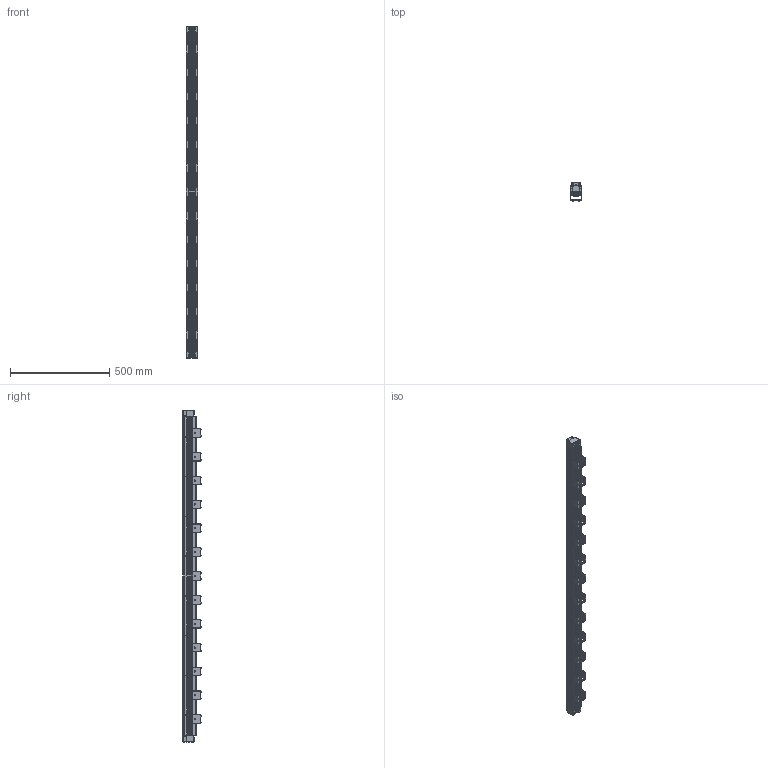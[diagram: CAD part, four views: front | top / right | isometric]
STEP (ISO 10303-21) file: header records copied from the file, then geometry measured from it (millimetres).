
FILE_DESCRIPTION((''),'2;1');
FILE_NAME('MV-LTHS-1600__3D__ASM','2020-12-30T',('Administrator'),(''),'PRO/ENGINEER BY PARAMETRIC TECHNOLOGY CORPORATION, 2010100','PRO/ENGINEER BY PARAMETRIC TECHNOLOGY CORPORATION, 2010100','');
FILE_SCHEMA(('CONFIG_CONTROL_DESIGN'));
Products named in the file (8): PRT0001_1; PRT0002_1; PRT0003_1; PRT0004_1; PRT0006_1; ASM0002_ASM_1_ASM; ASM0001_ASM_1_ASM; MV-LTHS-1600__3D__ASM
Assembly tree (21 placements, depth 4):
  MV-LTHS-1600__3D__ASM
    ASM0001_ASM_1_ASM
      ASM0002_ASM_1_ASM
        PRT0001_1
        PRT0002_1  x2
        PRT0003_1
        PRT0004_1  x13
        PRT0006_1  x2
Bounding box: 58 x 92.5 x 1670 mm (x, y, z)
Volume: 2274465.5 mm3; surface area: 2288638.1 mm2
Topology: 19 solids, 237 shells, 4370 faces, 11962 edges, 7696 vertices
Faces by surface type: plane 2040, cylinder 1654, cone 676
Entity records: 102439 total; most frequent: CARTESIAN_POINT 20244, DIRECTION 17238, ORIENTED_EDGE 16454, EDGE_CURVE 8531, AXIS2_PLACEMENT_3D 6040, VERTEX_POINT 5621, VECTOR 5158, LINE 5158
